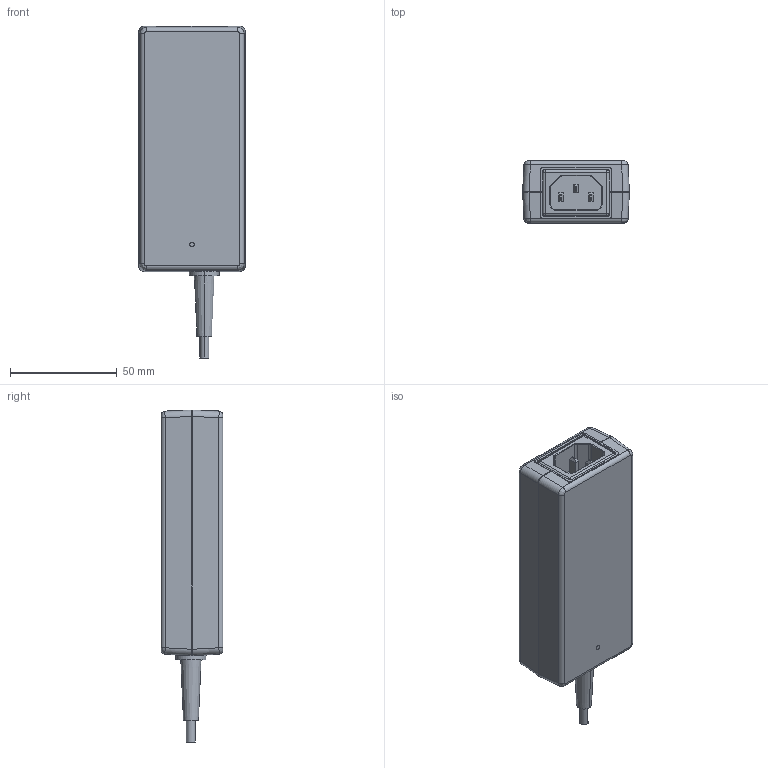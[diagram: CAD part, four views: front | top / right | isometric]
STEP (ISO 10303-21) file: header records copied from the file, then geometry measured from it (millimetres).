
FILE_DESCRIPTION((''),'2;1');
FILE_NAME('0_STD-NEW_MEA-065_ASM','2020-02-04T',('TONY.CH.YU'),(''),'PRO/ENGINEER BY PARAMETRIC TECHNOLOGY CORPORATION, 2015240','PRO/ENGINEER BY PARAMETRIC TECHNOLOGY CORPORATION, 2015240','');
FILE_SCHEMA(('AUTOMOTIVE_DESIGN { 1 0 10303 214 1 1 1 1 }'));
Products named in the file (8): CASE_CHASSIS; 325_LENS; CASE_CHASSIS_ASM; CASE_COVER; 65W_SR; 1_CASE-ASSY_MEA-065_ASM; PRT1; 0_STD-NEW_MEA-065_ASM
Assembly tree (7 placements, depth 4):
  0_STD-NEW_MEA-065_ASM
    1_CASE-ASSY_MEA-065_ASM
      CASE_CHASSIS_ASM
        CASE_CHASSIS
        325_LENS
      CASE_COVER
      65W_SR
    PRT1
Bounding box: 50 x 29 x 155.44 mm (x, y, z)
Volume: 46537.1 mm3; surface area: 49074.3 mm2
Topology: 5 solids, 5 shells, 1129 faces, 3000 edges, 1896 vertices
Faces by surface type: plane 737, cylinder 196, cone 76, torus 54, bspline 26, revolution 16, extrusion 12, sphere 12
Entity records: 51584 total; most frequent: CARTESIAN_POINT 9384, PRESENTATION_LAYER_ASSIGNMENT 8769, ORIENTED_EDGE 5966, DIRECTION 5450, EDGE_CURVE 2983, VECTOR 2298, LINE 2286, VERTEX_POINT 1896
